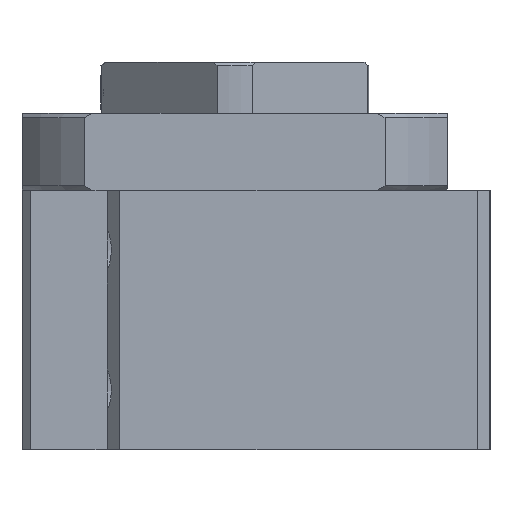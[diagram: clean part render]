
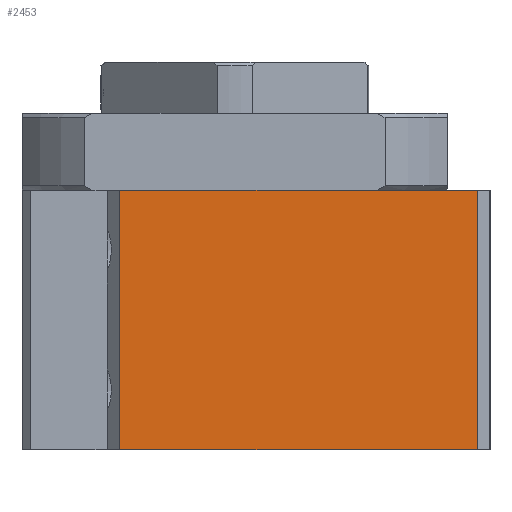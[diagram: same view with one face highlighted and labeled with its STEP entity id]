
A CAD part, left-side view. The second image highlights one B-rep face of the part: STEP entity #2453.
In plain terms, the highlighted planar face has unit normal (-1, 0, 0).
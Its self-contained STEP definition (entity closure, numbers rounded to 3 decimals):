
#125=LINE('',#3727,#313);
#138=LINE('',#3760,#326);
#139=LINE('',#3763,#327);
#140=LINE('',#3764,#328);
#313=VECTOR('',#2956,1000.);
#326=VECTOR('',#2979,1000.);
#327=VECTOR('',#2980,1000.);
#328=VECTOR('',#2981,1000.);
#493=PLANE('',#2659);
#634=ORIENTED_EDGE('',*,*,#1317,.F.);
#635=ORIENTED_EDGE('',*,*,#1318,.F.);
#636=ORIENTED_EDGE('',*,*,#1301,.T.);
#637=ORIENTED_EDGE('',*,*,#1319,.T.);
#1301=EDGE_CURVE('',#1642,#1643,#125,.T.);
#1317=EDGE_CURVE('',#1657,#1658,#138,.T.);
#1318=EDGE_CURVE('',#1642,#1657,#139,.T.);
#1319=EDGE_CURVE('',#1643,#1658,#140,.T.);
#1642=VERTEX_POINT('',#3728);
#1643=VERTEX_POINT('',#3729);
#1657=VERTEX_POINT('',#3761);
#1658=VERTEX_POINT('',#3762);
#1978=EDGE_LOOP('',(#634,#635,#636,#637));
#2200=FACE_BOUND('',#1978,.T.);
#2453=ADVANCED_FACE('',(#2200),#493,.T.);
#2659=AXIS2_PLACEMENT_3D('',#3759,#2977,#2978);
#2956=DIRECTION('',(0.,-1.,0.));
#2977=DIRECTION('',(-1.,0.,0.));
#2978=DIRECTION('',(0.,0.,1.));
#2979=DIRECTION('',(0.,-1.,0.));
#2980=DIRECTION('',(0.,0.,1.));
#2981=DIRECTION('',(0.,0.,1.));
#3727=CARTESIAN_POINT('',(-80.,27.,-61.));
#3728=CARTESIAN_POINT('',(-80.,27.,-61.));
#3729=CARTESIAN_POINT('',(-80.,-57.,-61.));
#3759=CARTESIAN_POINT('',(-80.,27.,-61.));
#3760=CARTESIAN_POINT('',(-80.,27.,0.));
#3761=CARTESIAN_POINT('',(-80.,27.,0.));
#3762=CARTESIAN_POINT('',(-80.,-57.,0.));
#3763=CARTESIAN_POINT('',(-80.,27.,-61.));
#3764=CARTESIAN_POINT('',(-80.,-57.,-61.));
